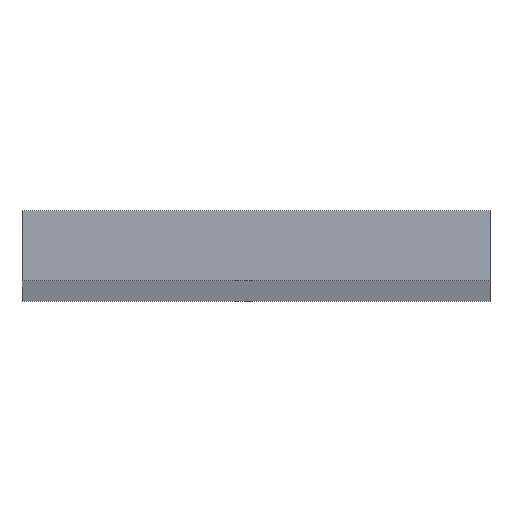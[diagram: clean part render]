
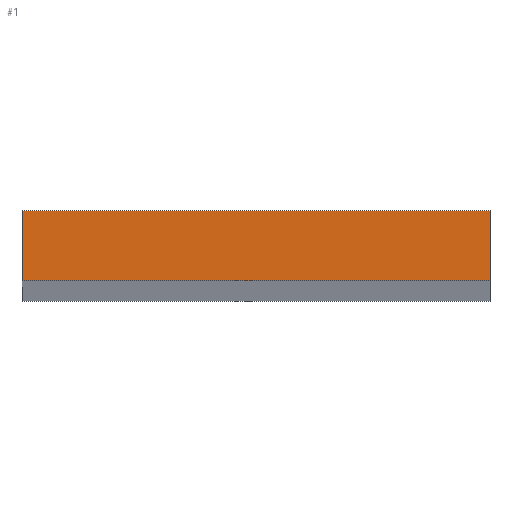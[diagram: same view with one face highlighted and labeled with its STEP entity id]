
A CAD part, top view. The second image highlights one B-rep face of the part: STEP entity #1.
In plain terms, the highlighted planar face has unit normal (0, 0, 1).
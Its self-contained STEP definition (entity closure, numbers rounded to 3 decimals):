
#1 = ADVANCED_FACE ( 'NONE', ( #43 ), #55, .F. ) ;
#7 = LINE ( 'NONE', #12, #15 ) ;
#10 = DIRECTION ( 'NONE',  ( 0., 1., 0. ) ) ;
#12 = CARTESIAN_POINT ( 'NONE',  ( 0., 6., 0. ) ) ;
#15 = VECTOR ( 'NONE', #131, 1000. ) ;
#18 = EDGE_CURVE ( 'NONE', #49, #178, #59, .T. ) ;
#37 = VECTOR ( 'NONE', #166, 1000. ) ;
#41 = DIRECTION ( 'NONE',  ( 1., 0., 0. ) ) ;
#43 = FACE_OUTER_BOUND ( 'NONE', #137, .T. ) ;
#46 = VECTOR ( 'NONE', #10, 1000. ) ;
#48 = ORIENTED_EDGE ( 'NONE', *, *, #115, .T. ) ;
#49 = VERTEX_POINT ( 'NONE', #158 ) ;
#53 = CARTESIAN_POINT ( 'NONE',  ( 0., 0., 0. ) ) ;
#55 = PLANE ( 'NONE',  #93 ) ;
#59 = LINE ( 'NONE', #147, #37 ) ;
#68 = VERTEX_POINT ( 'NONE', #145 ) ;
#80 = ORIENTED_EDGE ( 'NONE', *, *, #174, .T. ) ;
#81 = ORIENTED_EDGE ( 'NONE', *, *, #18, .T. ) ;
#82 = LINE ( 'NONE', #146, #46 ) ;
#90 = DIRECTION ( 'NONE',  ( 0., 0., -1. ) ) ;
#93 = AXIS2_PLACEMENT_3D ( 'NONE', #53, #90, #96 ) ;
#96 = DIRECTION ( 'NONE',  ( -1., 0., 0. ) ) ;
#105 = ORIENTED_EDGE ( 'NONE', *, *, #140, .T. ) ;
#115 = EDGE_CURVE ( 'NONE', #68, #120, #82, .T. ) ;
#120 = VERTEX_POINT ( 'NONE', #153 ) ;
#131 = DIRECTION ( 'NONE',  ( -1., 0., 0. ) ) ;
#137 = EDGE_LOOP ( 'NONE', ( #81, #80, #48, #105 ) ) ;
#140 = EDGE_CURVE ( 'NONE', #120, #49, #7, .T. ) ;
#144 = CARTESIAN_POINT ( 'NONE',  ( 0., 0., 0. ) ) ;
#145 = CARTESIAN_POINT ( 'NONE',  ( 40., 0., 0. ) ) ;
#146 = CARTESIAN_POINT ( 'NONE',  ( 40., 0., 0. ) ) ;
#147 = CARTESIAN_POINT ( 'NONE',  ( 0., 0., 0. ) ) ;
#153 = CARTESIAN_POINT ( 'NONE',  ( 40., 6., 0. ) ) ;
#158 = CARTESIAN_POINT ( 'NONE',  ( 0., 6., 0. ) ) ;
#166 = DIRECTION ( 'NONE',  ( 0., -1., 0. ) ) ;
#167 = LINE ( 'NONE', #181, #185 ) ;
#174 = EDGE_CURVE ( 'NONE', #178, #68, #167, .T. ) ;
#178 = VERTEX_POINT ( 'NONE', #144 ) ;
#181 = CARTESIAN_POINT ( 'NONE',  ( 0., 0., 0. ) ) ;
#185 = VECTOR ( 'NONE', #41, 1000. ) ;
